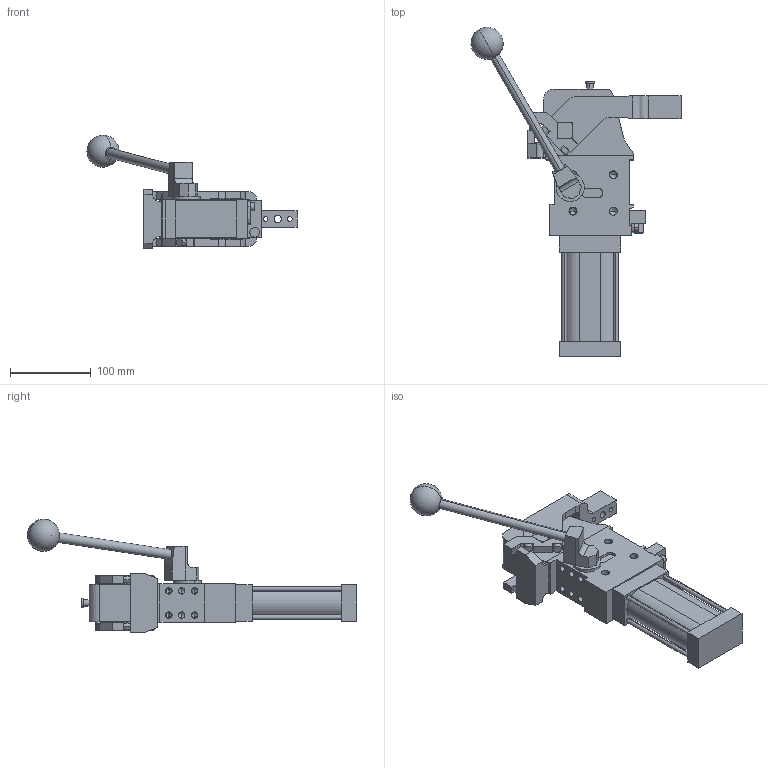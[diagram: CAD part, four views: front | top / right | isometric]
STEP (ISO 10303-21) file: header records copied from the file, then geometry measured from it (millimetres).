
FILE_DESCRIPTION (( 'STEP AP214' ), '1' );
FILE_NAME ('cplm50latv1csi1g_16.STEP', '2023-01-26T13:27:55', ( '' ), ( '' ), 'SwSTEP 2.0', 'SolidWorks 2022', '' );
FILE_SCHEMA (( 'AUTOMOTIVE_DESIGN' ));
Length unit declared in the file: millimetre
Products named in the file (5): meccanica_cplm_50_tassello_esterno; comando_manuale_cplm_50; blocchetto_VEP_0; cplm50latv1csi1g_16; leva_v1cs_cpl50t
Assembly tree (4 placements, depth 2):
  cplm50latv1csi1g_16
    meccanica_cplm_50_tassello_esterno
    blocchetto_VEP_0
    leva_v1cs_cpl50t
    comando_manuale_cplm_50
Bounding box: 260.57 x 408.56 x 141 mm (x, y, z)
Volume: 1500103.9 mm3; surface area: 189553.4 mm2
Topology: 4 solids, 4 shells, 468 faces, 1213 edges, 761 vertices
Faces by surface type: plane 243, cylinder 173, cone 50, sphere 2
Entity records: 15560 total; most frequent: DIRECTION 2478, CARTESIAN_POINT 2465, ORIENTED_EDGE 2324, EDGE_CURVE 1162, AXIS2_PLACEMENT_3D 845, VECTOR 788, LINE 788, VERTEX_POINT 758
